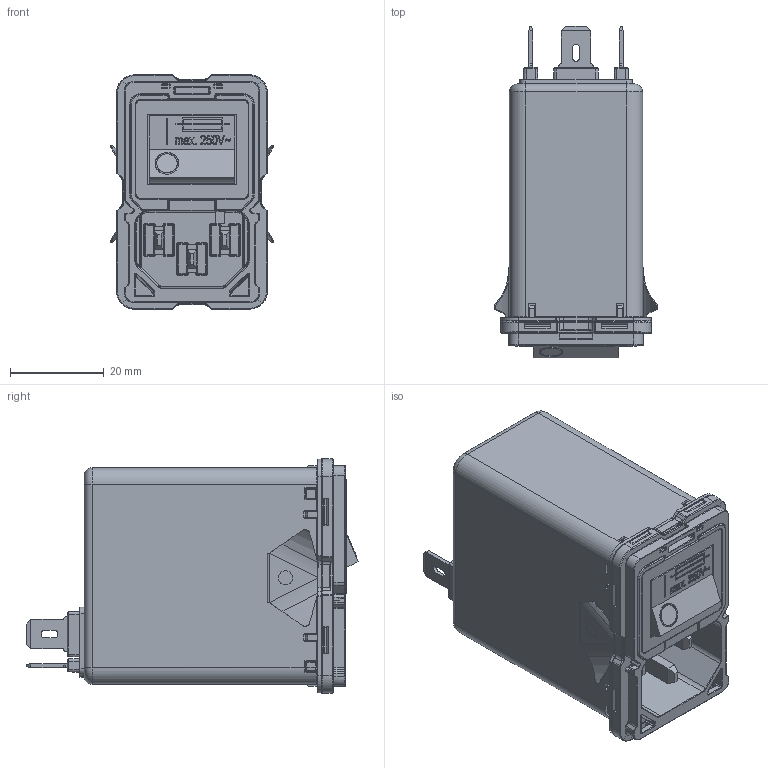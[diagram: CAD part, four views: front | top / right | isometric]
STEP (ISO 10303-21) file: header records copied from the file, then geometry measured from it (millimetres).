
FILE_DESCRIPTION((''),'2;1');
FILE_NAME('H:\02_Projects\A_Others\Z_Support\Luis\Cherry_STP\Step_Files\1 Stage\1_stage_faston_horizontal_snap.stp','2012-07-26T15:08:23',('Samuel.Meier'),(''),'Autodesk Inventor 2010','Autodesk Inventor 2010','');
FILE_SCHEMA(('AUTOMOTIVE_DESIGN { 1 2 10303 214 0 1 1 1 }'));
Length unit declared in the file: millimetre
Products named in the file (1): 1_stage_faston_horizontal_snap
Bounding box: 34.9 x 70.74 x 49.9 mm (x, y, z)
Surface area: 36902.4 mm2 (no closed solid volume)
Topology: 0 solids, 12 shells, 3012 faces, 7967 edges, 4894 vertices
Faces by surface type: plane 1198, cylinder 1114, bspline 488, sphere 91, torus 85, cone 36
Full cylindrical faces by diameter (mm): 0.8 x4, 1 x2, 1.1 x10, 1.2 x1, 2.7 x1, 3 x2, 3.3 x1, 3.6 x1, 4 x2, 6.5 x1, 7.2 x1, 8.2 x1
Entity records: 103084 total; most frequent: CARTESIAN_POINT 26946, ORIENTED_EDGE 15678, DIRECTION 15014, EDGE_CURVE 7839, AXIS2_PLACEMENT_3D 5258, VERTEX_POINT 4886, VECTOR 4498, LINE 4498
